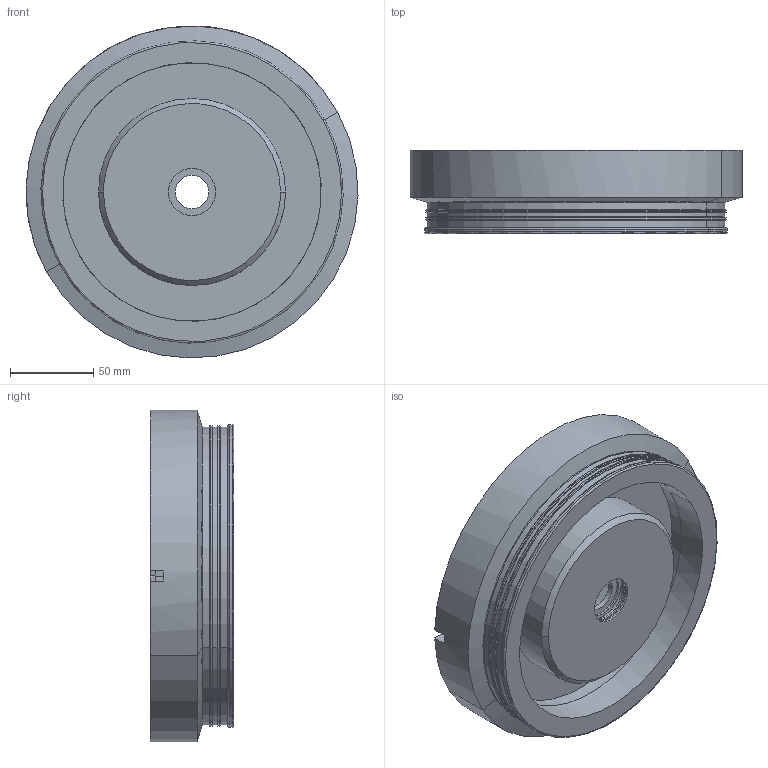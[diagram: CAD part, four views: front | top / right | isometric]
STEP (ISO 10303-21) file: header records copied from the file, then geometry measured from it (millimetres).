
FILE_DESCRIPTION(('CATIA V5 STEP Exchange'),'2;1');
FILE_NAME('G:\够快云库\系统集成开发部\1.部门成员\孙国\ECAS集成\STP\991.1010.05_V1-20210125 空气弹簧上盖.stp','2021-01-26T08:55:49+00:00',('none'),('none'),'CATIA Version 5 Release 21 GA (IN-10)','CATIA V5 STEP AP203','none');
FILE_SCHEMA(('CONFIG_CONTROL_DESIGN'));
Length unit declared in the file: millimetre
Products named in the file (1): 991.1010.05_V1
Bounding box: 198.97 x 50 x 198.94 mm (x, y, z)
Volume: 843903 mm3; surface area: 129813.7 mm2
Topology: 1 solids, 1 shells, 91 faces, 206 edges, 125 vertices
Faces by surface type: cylinder 44, plane 21, torus 14, cone 12
Entity records: 2412 total; most frequent: CARTESIAN_POINT 541, ORIENTED_EDGE 396, DIRECTION 298, EDGE_CURVE 198, AXIS2_PLACEMENT_3D 173, VERTEX_POINT 125, CIRCLE 115, EDGE_LOOP 109
